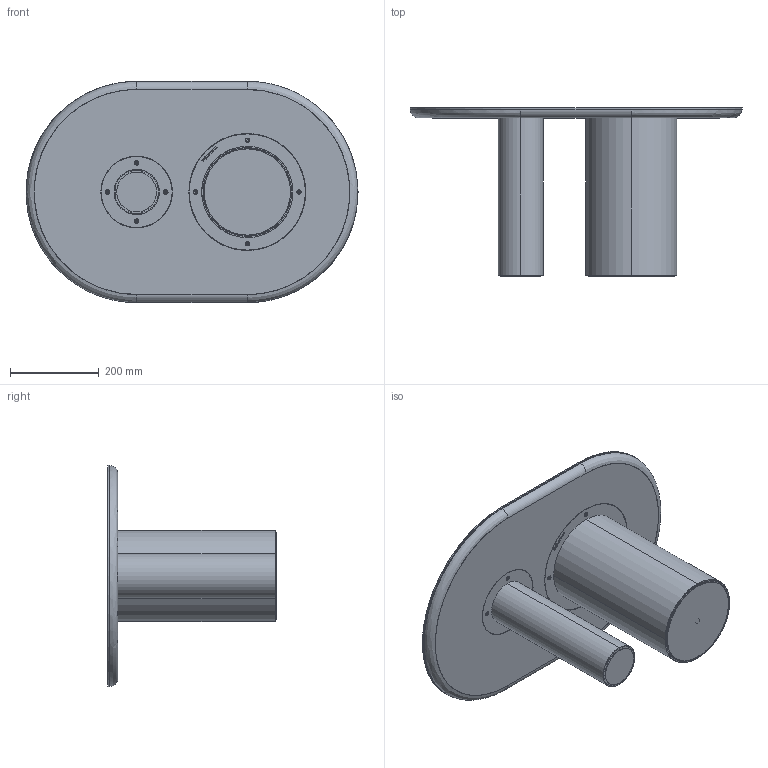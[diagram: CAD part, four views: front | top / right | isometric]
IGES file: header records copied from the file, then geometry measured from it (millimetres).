
Start section: SolidWorks IGES file using analytic representation for surfaces
Global section: file name: \\UTENTI\Dati Utenti\Tecnico\DC\2D - 3D per sito\3D\DeCastelli-3D-Flock 38.igs; native system: SolidWorks 2022; preprocessor: SolidWorks 2022; author: filippo; date: 240724.135702; units: millimetre
Bounding box: 750 x 380 x 500 mm (x, y, z)
Surface area: 1757228.3 mm2 (no closed solid volume)
Topology: 0 solids, 0 shells, 94 faces, 2681 edges, 2681 vertices
Faces by surface type: bspline 59, revolution 35
